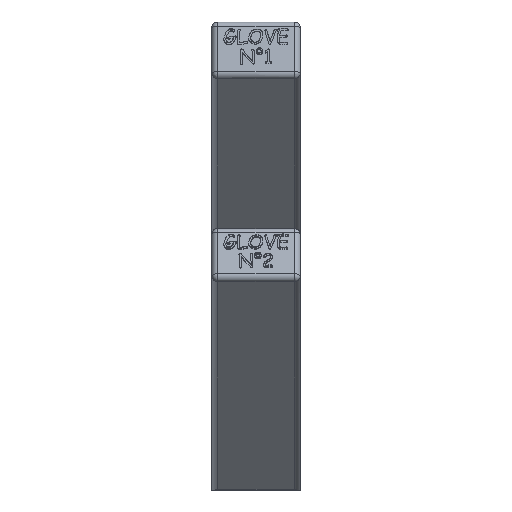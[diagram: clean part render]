
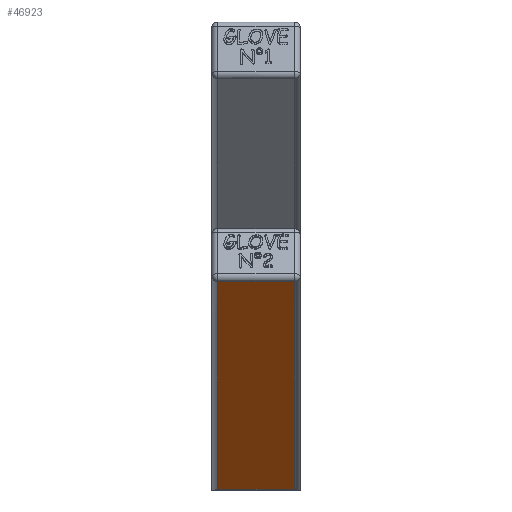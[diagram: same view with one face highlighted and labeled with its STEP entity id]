
A CAD part, front view. The second image highlights one B-rep face of the part: STEP entity #46923.
In plain terms, the highlighted planar face has unit normal (0, -0.423, -0.906).
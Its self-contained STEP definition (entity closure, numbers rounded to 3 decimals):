
#8 = DIRECTION ( 'NONE',  ( 0., -0.423, -0.906 ) ) ;
#762 = DIRECTION ( 'NONE',  ( 0., -0.906, 0.423 ) ) ;
#1699 = LINE ( 'NONE', #27899, #15368 ) ;
#2172 = CARTESIAN_POINT ( 'NONE',  ( -18., -40.402, 0.187 ) ) ;
#2445 = VECTOR ( 'NONE', #21318, 1000. ) ;
#3190 = EDGE_CURVE ( 'NONE', #28617, #22881, #1699, .T. ) ;
#3886 = FACE_OUTER_BOUND ( 'NONE', #4221, .T. ) ;
#4221 = EDGE_LOOP ( 'NONE', ( #26326, #13628, #14909, #11616 ) ) ;
#5063 = CARTESIAN_POINT ( 'NONE',  ( 8., -191.219, 70.515 ) ) ;
#6003 = EDGE_CURVE ( 'NONE', #17403, #21430, #31106, .T. ) ;
#6143 = VECTOR ( 'NONE', #762, 1000. ) ;
#9858 = EDGE_CURVE ( 'NONE', #22881, #17403, #43417, .T. ) ;
#11616 = ORIENTED_EDGE ( 'NONE', *, *, #3190, .T. ) ;
#13628 = ORIENTED_EDGE ( 'NONE', *, *, #6003, .T. ) ;
#14909 = ORIENTED_EDGE ( 'NONE', *, *, #32990, .T. ) ;
#15368 = VECTOR ( 'NONE', #45891, 1000. ) ;
#15593 = CARTESIAN_POINT ( 'NONE',  ( 10., -40.402, 0.187 ) ) ;
#17403 = VERTEX_POINT ( 'NONE', #2172 ) ;
#21318 = DIRECTION ( 'NONE',  ( 0., 0.906, -0.423 ) ) ;
#21430 = VERTEX_POINT ( 'NONE', #42347 ) ;
#22101 = DIRECTION ( 'NONE',  ( 0., 0.906, -0.423 ) ) ;
#22881 = VERTEX_POINT ( 'NONE', #25046 ) ;
#25046 = CARTESIAN_POINT ( 'NONE',  ( -18., -191.219, 70.515 ) ) ;
#25103 = AXIS2_PLACEMENT_3D ( 'NONE', #30093, #8, #22101 ) ;
#26326 = ORIENTED_EDGE ( 'NONE', *, *, #9858, .T. ) ;
#26496 = LINE ( 'NONE', #34009, #6143 ) ;
#27899 = CARTESIAN_POINT ( 'NONE',  ( -20., -191.219, 70.515 ) ) ;
#28617 = VERTEX_POINT ( 'NONE', #5063 ) ;
#30093 = CARTESIAN_POINT ( 'NONE',  ( -20., -40., 0. ) ) ;
#31106 = LINE ( 'NONE', #15593, #45728 ) ;
#32990 = EDGE_CURVE ( 'NONE', #21430, #28617, #26496, .T. ) ;
#34009 = CARTESIAN_POINT ( 'NONE',  ( 8., -193.032, 71.36 ) ) ;
#36898 = PLANE ( 'NONE',  #25103 ) ;
#42347 = CARTESIAN_POINT ( 'NONE',  ( 8., -40.402, 0.187 ) ) ;
#43417 = LINE ( 'NONE', #43652, #2445 ) ;
#43652 = CARTESIAN_POINT ( 'NONE',  ( -18., -40., 0. ) ) ;
#45728 = VECTOR ( 'NONE', #45939, 1000. ) ;
#45891 = DIRECTION ( 'NONE',  ( -1., 0., 0. ) ) ;
#45939 = DIRECTION ( 'NONE',  ( 1., 0., 0. ) ) ;
#46923 = ADVANCED_FACE ( 'NONE', ( #3886 ), #36898, .T. ) ;
